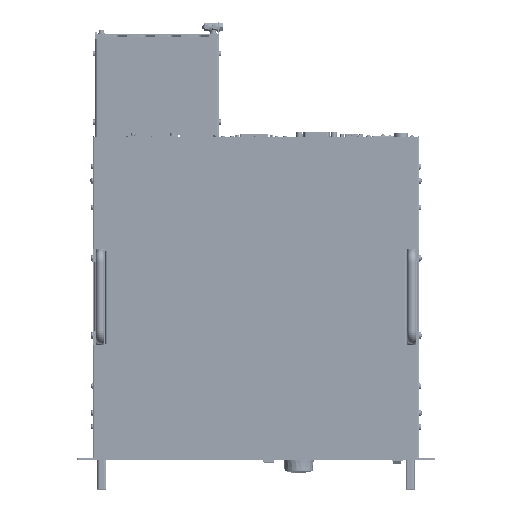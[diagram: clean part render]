
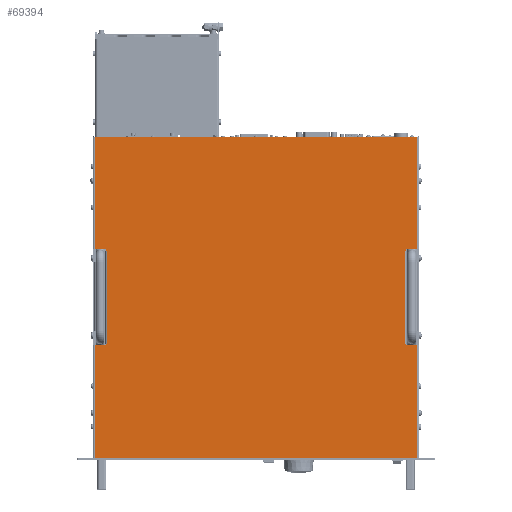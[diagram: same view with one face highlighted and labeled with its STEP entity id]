
A CAD part, top view. The second image highlights one B-rep face of the part: STEP entity #69394.
In plain terms, the highlighted planar face has unit normal (0, 0, 1).
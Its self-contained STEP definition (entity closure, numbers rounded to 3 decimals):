
#69394=ADVANCED_FACE('',(#140439),#140440,.F.);
#140439=FACE_OUTER_BOUND('',#245116,.T.);
#140440=PLANE('',#245117);
#245116=EDGE_LOOP('',(#440918,#440919,#440920,#440921,#440922,#440923,#440924,#440925,#440926,#440927,#440928,#440929,#440930,#440931,#440932,#440933,#440934,#440935,#440936,#440937));
#245117=AXIS2_PLACEMENT_3D('',#440938,#440939,#440940);
#440918=ORIENTED_EDGE('',*,*,#523781,.T.);
#440919=ORIENTED_EDGE('',*,*,#523801,.F.);
#440920=ORIENTED_EDGE('',*,*,#523802,.F.);
#440921=ORIENTED_EDGE('',*,*,#523445,.F.);
#440922=ORIENTED_EDGE('',*,*,#523767,.F.);
#440923=ORIENTED_EDGE('',*,*,#523430,.F.);
#440924=ORIENTED_EDGE('',*,*,#523756,.F.);
#440925=ORIENTED_EDGE('',*,*,#523803,.F.);
#440926=ORIENTED_EDGE('',*,*,#523799,.T.);
#440927=ORIENTED_EDGE('',*,*,#523794,.F.);
#440928=ORIENTED_EDGE('',*,*,#523791,.T.);
#440929=ORIENTED_EDGE('',*,*,#523804,.F.);
#440930=ORIENTED_EDGE('',*,*,#523732,.F.);
#440931=ORIENTED_EDGE('',*,*,#523420,.F.);
#440932=ORIENTED_EDGE('',*,*,#523721,.F.);
#440933=ORIENTED_EDGE('',*,*,#523440,.F.);
#440934=ORIENTED_EDGE('',*,*,#523805,.F.);
#440935=ORIENTED_EDGE('',*,*,#523806,.F.);
#440936=ORIENTED_EDGE('',*,*,#523778,.T.);
#440937=ORIENTED_EDGE('',*,*,#523786,.T.);
#440938=CARTESIAN_POINT('',(239.8,220.125,86.465));
#440939=DIRECTION('',(0.,0.,-1.0));
#440940=DIRECTION('',(1.0,0.,0.));
#523420=EDGE_CURVE('',#636989,#636991,#636992,.T.);
#523430=EDGE_CURVE('',#637007,#637009,#637010,.T.);
#523440=EDGE_CURVE('',#637025,#637027,#637028,.T.);
#523445=EDGE_CURVE('',#637034,#637036,#637037,.T.);
#523721=EDGE_CURVE('',#637027,#636989,#637467,.T.);
#523732=EDGE_CURVE('',#636991,#637482,#637483,.T.);
#523756=EDGE_CURVE('',#637515,#637007,#637517,.T.);
#523767=EDGE_CURVE('',#637009,#637034,#637532,.T.);
#523778=EDGE_CURVE('',#637543,#637546,#637548,.T.);
#523781=EDGE_CURVE('',#637553,#637550,#637554,.T.);
#523786=EDGE_CURVE('',#637546,#637553,#637559,.T.);
#523791=EDGE_CURVE('',#637565,#637563,#637566,.T.);
#523794=EDGE_CURVE('',#637565,#637569,#637570,.T.);
#523799=EDGE_CURVE('',#637575,#637569,#637577,.T.);
#523801=EDGE_CURVE('',#637579,#637550,#637580,.T.);
#523802=EDGE_CURVE('',#637036,#637579,#637581,.T.);
#523803=EDGE_CURVE('',#637575,#637515,#637582,.T.);
#523804=EDGE_CURVE('',#637482,#637563,#637583,.T.);
#523805=EDGE_CURVE('',#637584,#637025,#637585,.T.);
#523806=EDGE_CURVE('',#637543,#637584,#637586,.T.);
#636989=VERTEX_POINT('',#797159);
#636991=VERTEX_POINT('',#797161);
#636992=LINE('',#797162,#797163);
#637007=VERTEX_POINT('',#797181);
#637009=VERTEX_POINT('',#797183);
#637010=LINE('',#797184,#797185);
#637025=VERTEX_POINT('',#797203);
#637027=VERTEX_POINT('',#797205);
#637028=LINE('',#797206,#797207);
#637034=VERTEX_POINT('',#797214);
#637036=VERTEX_POINT('',#797216);
#637037=LINE('',#797217,#797218);
#637467=LINE('',#797769,#797770);
#637482=VERTEX_POINT('',#797790);
#637483=LINE('',#797791,#797792);
#637515=VERTEX_POINT('',#797838);
#637517=LINE('',#797841,#797842);
#637532=LINE('',#797862,#797863);
#637543=VERTEX_POINT('',#797878);
#637546=VERTEX_POINT('',#797882);
#637548=LINE('',#797884,#797885);
#637550=VERTEX_POINT('',#797887);
#637553=VERTEX_POINT('',#797891);
#637554=LINE('',#797892,#797893);
#637559=LINE('',#797898,#797899);
#637563=VERTEX_POINT('',#797904);
#637565=VERTEX_POINT('',#797907);
#637566=LINE('',#797908,#797909);
#637569=VERTEX_POINT('',#797912);
#637570=LINE('',#797913,#797914);
#637575=VERTEX_POINT('',#797919);
#637577=LINE('',#797922,#797923);
#637579=VERTEX_POINT('',#797925);
#637580=LINE('',#797926,#797927);
#637581=LINE('',#797928,#797929);
#637582=LINE('',#797930,#797931);
#637583=LINE('',#797932,#797933);
#637584=VERTEX_POINT('',#797934);
#637585=LINE('',#797935,#797936);
#637586=LINE('',#797937,#797938);
#797159=CARTESIAN_POINT('',(22.123,3.5,86.465));
#797161=CARTESIAN_POINT('',(22.123,155.5,86.465));
#797162=CARTESIAN_POINT('',(22.123,149.813,86.465));
#797163=VECTOR('',#890947,1.0);
#797181=CARTESIAN_POINT('',(22.123,284.75,86.465));
#797183=CARTESIAN_POINT('',(22.123,436.75,86.465));
#797184=CARTESIAN_POINT('',(22.123,290.438,86.465));
#797185=VECTOR('',#890963,1.0);
#797203=CARTESIAN_POINT('',(457.477,155.5,86.465));
#797205=CARTESIAN_POINT('',(457.477,3.5,86.465));
#797206=CARTESIAN_POINT('',(457.477,149.813,86.465));
#797207=VECTOR('',#890979,1.0);
#797214=CARTESIAN_POINT('',(457.477,436.75,86.465));
#797216=CARTESIAN_POINT('',(457.477,284.75,86.465));
#797217=CARTESIAN_POINT('',(457.477,290.438,86.465));
#797218=VECTOR('',#890987,1.0);
#797769=CARTESIAN_POINT('',(460.227,3.5,86.465));
#797770=VECTOR('',#891373,1.0);
#797790=CARTESIAN_POINT('',(37.373,155.5,86.465));
#797791=CARTESIAN_POINT('',(19.373,155.5,86.465));
#797792=VECTOR('',#891391,1.0);
#797838=CARTESIAN_POINT('',(37.373,284.75,86.465));
#797841=CARTESIAN_POINT('',(37.373,284.75,86.465));
#797842=VECTOR('',#891419,1.0);
#797862=CARTESIAN_POINT('',(19.373,436.75,86.465));
#797863=VECTOR('',#891437,1.0);
#797878=CARTESIAN_POINT('',(442.227,157.5,86.465));
#797882=CARTESIAN_POINT('',(440.477,157.5,86.465));
#797884=CARTESIAN_POINT('',(341.093,157.5,86.465));
#797885=VECTOR('',#891449,1.0);
#797887=CARTESIAN_POINT('',(442.227,282.75,86.465));
#797891=CARTESIAN_POINT('',(440.477,282.75,86.465));
#797892=CARTESIAN_POINT('',(341.093,282.75,86.465));
#797893=VECTOR('',#891451,1.0);
#797898=CARTESIAN_POINT('',(440.477,220.125,86.465));
#797899=VECTOR('',#891461,1.0);
#797904=CARTESIAN_POINT('',(37.373,157.5,86.465));
#797907=CARTESIAN_POINT('',(39.123,157.5,86.465));
#797908=CARTESIAN_POINT('',(138.507,157.5,86.465));
#797909=VECTOR('',#891464,1.0);
#797912=CARTESIAN_POINT('',(39.123,282.75,86.465));
#797913=CARTESIAN_POINT('',(39.123,220.125,86.465));
#797914=VECTOR('',#891468,1.0);
#797919=CARTESIAN_POINT('',(37.373,282.75,86.465));
#797922=CARTESIAN_POINT('',(138.507,282.75,86.465));
#797923=VECTOR('',#891476,1.0);
#797925=CARTESIAN_POINT('',(442.227,284.75,86.465));
#797926=CARTESIAN_POINT('',(442.227,284.75,86.465));
#797927=VECTOR('',#891477,1.0);
#797928=CARTESIAN_POINT('',(460.227,284.75,86.465));
#797929=VECTOR('',#891478,1.0);
#797930=CARTESIAN_POINT('',(37.373,282.75,86.465));
#797931=VECTOR('',#891479,1.0);
#797932=CARTESIAN_POINT('',(37.373,155.5,86.465));
#797933=VECTOR('',#891480,1.0);
#797934=CARTESIAN_POINT('',(442.227,155.5,86.465));
#797935=CARTESIAN_POINT('',(442.227,155.5,86.465));
#797936=VECTOR('',#891481,1.0);
#797937=CARTESIAN_POINT('',(442.227,157.5,86.465));
#797938=VECTOR('',#891482,1.0);
#890947=DIRECTION('',(0.0,1.0,0.));
#890963=DIRECTION('',(0.0,1.0,0.));
#890979=DIRECTION('',(0.0,-1.0,0.));
#890987=DIRECTION('',(0.0,-1.0,0.));
#891373=DIRECTION('',(-1.0,0.0,0.));
#891391=DIRECTION('',(1.0,0.0,0.0));
#891419=DIRECTION('',(-1.0,0.0,0.0));
#891437=DIRECTION('',(1.0,0.0,0.0));
#891449=DIRECTION('',(-1.0,0.0,0.0));
#891451=DIRECTION('',(1.0,0.0,0.0));
#891461=DIRECTION('',(0.0,1.0,0.));
#891464=DIRECTION('',(-1.0,0.0,0.0));
#891468=DIRECTION('',(0.0,1.0,0.));
#891476=DIRECTION('',(1.0,0.0,0.0));
#891477=DIRECTION('',(0.0,-1.0,0.));
#891478=DIRECTION('',(-1.0,0.0,0.0));
#891479=DIRECTION('',(0.0,1.0,0.));
#891480=DIRECTION('',(0.0,1.0,0.));
#891481=DIRECTION('',(1.0,0.0,0.0));
#891482=DIRECTION('',(0.0,-1.0,0.));
